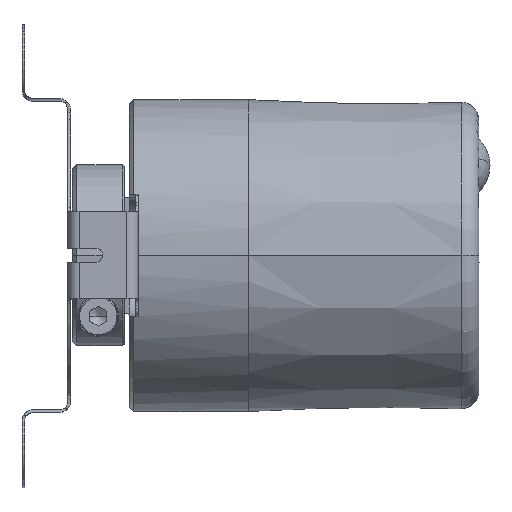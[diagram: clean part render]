
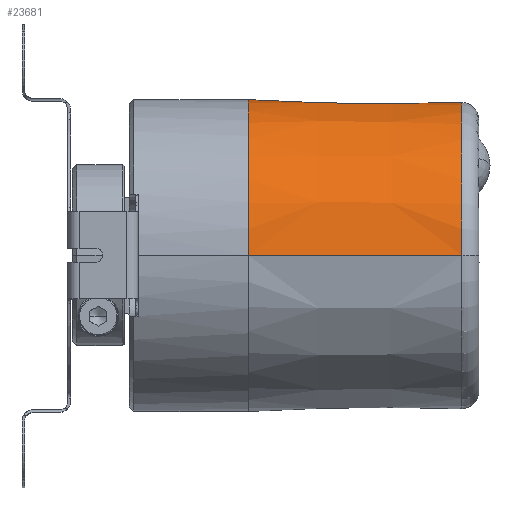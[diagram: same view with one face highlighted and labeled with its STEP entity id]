
A CAD part, top view. The second image highlights one B-rep face of the part: STEP entity #23681.
In plain terms, the highlighted conical face has half-angle 0.75 degrees and reference radius 18 mm.
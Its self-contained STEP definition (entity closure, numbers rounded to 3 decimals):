
#488 = VERTEX_POINT ( 'NONE', #8004 ) ;
#489 = EDGE_CURVE ( 'NONE', #488, #490, #8003, .T. ) ;
#490 = VERTEX_POINT ( 'NONE', #8002 ) ;
#6414 = VERTEX_POINT ( 'NONE', #27886 ) ;
#8002 = CARTESIAN_POINT ( 'NONE',  ( 14.892, 1.046, -17.954 ) ) ;
#8003 = B_SPLINE_CURVE_WITH_KNOTS ( 'NONE', 3,
 ( #8053, #8052, #8051, #8050, #8049, #8048, #8047, #8046, #8045, #8044 ),
 .UNSPECIFIED., .F., .F.,
 ( 4, 2, 2, 2, 4 ),
 ( 0.002, 0.002, 0.002, 0.003, 0.003 ),
 .UNSPECIFIED. ) ;
#8004 = CARTESIAN_POINT ( 'NONE',  ( 15.85, 0., -17.972 ) ) ;
#8044 = CARTESIAN_POINT ( 'NONE',  ( 14.892, 1.046, -17.954 ) ) ;
#8045 = CARTESIAN_POINT ( 'NONE',  ( 15.022, 1.035, -17.953 ) ) ;
#8046 = CARTESIAN_POINT ( 'NONE',  ( 15.149, 0.999, -17.953 ) ) ;
#8047 = CARTESIAN_POINT ( 'NONE',  ( 15.381, 0.884, -17.956 ) ) ;
#8048 = CARTESIAN_POINT ( 'NONE',  ( 15.487, 0.804, -17.959 ) ) ;
#8049 = CARTESIAN_POINT ( 'NONE',  ( 15.662, 0.614, -17.964 ) ) ;
#8050 = CARTESIAN_POINT ( 'NONE',  ( 15.732, 0.501, -17.967 ) ) ;
#8051 = CARTESIAN_POINT ( 'NONE',  ( 15.825, 0.26, -17.971 ) ) ;
#8052 = CARTESIAN_POINT ( 'NONE',  ( 15.85, 0.129, -17.972 ) ) ;
#8053 = CARTESIAN_POINT ( 'NONE',  ( 15.85, 0., -17.972 ) ) ;
#23613 = ORIENTED_EDGE ( 'NONE', *, *, #23643, .T. ) ;
#23614 = VERTEX_POINT ( 'NONE', #29727 ) ;
#23616 = ORIENTED_EDGE ( 'NONE', *, *, #23656, .T. ) ;
#23619 = VERTEX_POINT ( 'NONE', #29721 ) ;
#23638 = EDGE_CURVE ( 'NONE', #23642, #23614, #29808, .T. ) ;
#23639 = EDGE_CURVE ( 'NONE', #23642, #23672, #29803, .T. ) ;
#23640 = ORIENTED_EDGE ( 'NONE', *, *, #23638, .F. ) ;
#23641 = ORIENTED_EDGE ( 'NONE', *, *, #23644, .T. ) ;
#23642 = VERTEX_POINT ( 'NONE', #29802 ) ;
#23643 = EDGE_CURVE ( 'NONE', #23687, #23696, #29829, .T. ) ;
#23644 = EDGE_CURVE ( 'NONE', #23696, #23699, #29824, .T. ) ;
#23645 = ORIENTED_EDGE ( 'NONE', *, *, #23639, .T. ) ;
#23646 = ORIENTED_EDGE ( 'NONE', *, *, #489, .T. ) ;
#23647 = EDGE_CURVE ( 'NONE', #23619, #488, #29819, .T. ) ;
#23649 = EDGE_CURVE ( 'NONE', #490, #23687, #29815, .T. ) ;
#23651 = ORIENTED_EDGE ( 'NONE', *, *, #23647, .T. ) ;
#23652 = ORIENTED_EDGE ( 'NONE', *, *, #23649, .T. ) ;
#23653 = EDGE_CURVE ( 'NONE', #23619, #23672, #29856, .T. ) ;
#23655 = EDGE_CURVE ( 'NONE', #23659, #23614, #29847, .T. ) ;
#23656 = EDGE_CURVE ( 'NONE', #6414, #23659, #29841, .T. ) ;
#23658 = ORIENTED_EDGE ( 'NONE', *, *, #23655, .T. ) ;
#23659 = VERTEX_POINT ( 'NONE', #29892 ) ;
#23660 = EDGE_CURVE ( 'NONE', #6414, #23699, #29886, .T. ) ;
#23663 = ORIENTED_EDGE ( 'NONE', *, *, #23660, .F. ) ;
#23672 = VERTEX_POINT ( 'NONE', #29909 ) ;
#23681 = ADVANCED_FACE ( 'NONE', ( #29897 ), #29985, .T. ) ;
#23683 = ORIENTED_EDGE ( 'NONE', *, *, #23653, .F. ) ;
#23687 = VERTEX_POINT ( 'NONE', #29978 ) ;
#23689 = EDGE_LOOP ( 'NONE', ( #23683, #23651, #23646, #23652, #23613, #23641, #23663, #23616, #23658, #23640, #23645 ) ) ;
#23696 = VERTEX_POINT ( 'NONE', #29993 ) ;
#23699 = VERTEX_POINT ( 'NONE', #29986 ) ;
#27886 = CARTESIAN_POINT ( 'NONE',  ( 38.326, 0., 17.678 ) ) ;
#29721 = CARTESIAN_POINT ( 'NONE',  ( 24.3, 0., -17.861 ) ) ;
#29727 = CARTESIAN_POINT ( 'NONE',  ( 38.3, 9.486, -14.917 ) ) ;
#29798 = CARTESIAN_POINT ( 'NONE',  ( 25.672, 9.264, -15.25 ) ) ;
#29799 = CARTESIAN_POINT ( 'NONE',  ( 25.977, 9.368, -15.181 ) ) ;
#29800 = CARTESIAN_POINT ( 'NONE',  ( 26.135, 9.397, -15.161 ) ) ;
#29801 = CARTESIAN_POINT ( 'NONE',  ( 26.3, 9.398, -15.158 ) ) ;
#29802 = CARTESIAN_POINT ( 'NONE',  ( 26.3, 9.398, -15.158 ) ) ;
#29803 = B_SPLINE_CURVE_WITH_KNOTS ( 'NONE', 3,
 ( #29801, #29800, #29799, #29798, #29837, #29836, #29835, #29834, #29833, #29832, #29831, #29830 ),
 .UNSPECIFIED., .F., .F.,
 ( 4, 2, 2, 2, 2, 4 ),
 ( 0., 0., 0.001, 0.002, 0.003, 0.004 ),
 .UNSPECIFIED. ) ;
#29804 = CARTESIAN_POINT ( 'NONE',  ( 38.3, 9.486, -14.917 ) ) ;
#29805 = CARTESIAN_POINT ( 'NONE',  ( 34.3, 9.457, -14.998 ) ) ;
#29806 = CARTESIAN_POINT ( 'NONE',  ( 30.3, 9.427, -15.078 ) ) ;
#29807 = CARTESIAN_POINT ( 'NONE',  ( 26.3, 9.398, -15.158 ) ) ;
#29808 = B_SPLINE_CURVE_WITH_KNOTS ( 'NONE', 3,
 ( #29807, #29806, #29805, #29804 ),
 .UNSPECIFIED., .F., .F.,
 ( 4, 4 ),
 ( 0.002, 0.014 ),
 .UNSPECIFIED. ) ;
#29815 =( BOUNDED_CURVE ( )  B_SPLINE_CURVE ( 3, ( #29860, #29859, #29858, #29857 ),
 .UNSPECIFIED., .F., .T. ) 
 B_SPLINE_CURVE_WITH_KNOTS ( ( 4, 4 ),
 ( 4.62, 4.623 ),
 .UNSPECIFIED. ) 
 CURVE ( )  GEOMETRIC_REPRESENTATION_ITEM ( )  RATIONAL_B_SPLINE_CURVE ( ( 1., 1., 1., 1. ) ) 
 REPRESENTATION_ITEM ( '' )  );
#29816 = DIRECTION ( 'NONE',  ( -1., 0., -0.013 ) ) ;
#29817 = VECTOR ( 'NONE', #29816, 1000. ) ;
#29818 = CARTESIAN_POINT ( 'NONE',  ( 13.7, 0., -18. ) ) ;
#29819 = LINE ( 'NONE', #29818, #29817 ) ;
#29820 = DIRECTION ( 'NONE',  ( 0., 0., -1. ) ) ;
#29821 = DIRECTION ( 'NONE',  ( 1., 0., 0. ) ) ;
#29822 = CARTESIAN_POINT ( 'NONE',  ( 13.7, 0., 0. ) ) ;
#29823 = AXIS2_PLACEMENT_3D ( 'NONE', #29822, #29821, #29820 ) ;
#29824 = CIRCLE ( 'NONE', #29823, 18. ) ;
#29825 = CARTESIAN_POINT ( 'NONE',  ( 13.7, 1.65, -17.924 ) ) ;
#29826 = CARTESIAN_POINT ( 'NONE',  ( 13.882, 1.468, -17.939 ) ) ;
#29827 = CARTESIAN_POINT ( 'NONE',  ( 14.065, 1.285, -17.95 ) ) ;
#29828 = CARTESIAN_POINT ( 'NONE',  ( 14.248, 1.102, -17.959 ) ) ;
#29829 =( BOUNDED_CURVE ( )  B_SPLINE_CURVE ( 3, ( #29828, #29827, #29826, #29825 ),
 .UNSPECIFIED., .F., .T. ) 
 B_SPLINE_CURVE_WITH_KNOTS ( ( 4, 4 ),
 ( 4.761, 4.791 ),
 .UNSPECIFIED. ) 
 CURVE ( )  GEOMETRIC_REPRESENTATION_ITEM ( )  RATIONAL_B_SPLINE_CURVE ( ( 1., 1., 1., 1. ) ) 
 REPRESENTATION_ITEM ( '' )  );
#29830 = CARTESIAN_POINT ( 'NONE',  ( 24.3, 6.771, -16.528 ) ) ;
#29831 = CARTESIAN_POINT ( 'NONE',  ( 24.3, 7.074, -16.404 ) ) ;
#29832 = CARTESIAN_POINT ( 'NONE',  ( 24.343, 7.37, -16.272 ) ) ;
#29833 = CARTESIAN_POINT ( 'NONE',  ( 24.507, 7.94, -16. ) ) ;
#29834 = CARTESIAN_POINT ( 'NONE',  ( 24.625, 8.207, -15.862 ) ) ;
#29835 = CARTESIAN_POINT ( 'NONE',  ( 24.948, 8.703, -15.59 ) ) ;
#29836 = CARTESIAN_POINT ( 'NONE',  ( 25.15, 8.928, -15.458 ) ) ;
#29837 = CARTESIAN_POINT ( 'NONE',  ( 25.533, 9.191, -15.296 ) ) ;
#29838 = DIRECTION ( 'NONE',  ( 0., 0., -1. ) ) ;
#29839 = DIRECTION ( 'NONE',  ( -1., 0., 0. ) ) ;
#29840 = AXIS2_PLACEMENT_3D ( 'NONE', #29846, #29839, #29838 ) ;
#29841 = CIRCLE ( 'NONE', #29840, 17.678 ) ;
#29842 = CARTESIAN_POINT ( 'NONE',  ( 38.3, 9.486, -14.917 ) ) ;
#29843 = CARTESIAN_POINT ( 'NONE',  ( 38.309, 9.486, -14.917 ) ) ;
#29844 = CARTESIAN_POINT ( 'NONE',  ( 38.317, 9.486, -14.917 ) ) ;
#29845 = CARTESIAN_POINT ( 'NONE',  ( 38.326, 9.486, -14.917 ) ) ;
#29846 = CARTESIAN_POINT ( 'NONE',  ( 38.326, 0., 0. ) ) ;
#29847 = B_SPLINE_CURVE_WITH_KNOTS ( 'NONE', 3,
 ( #29845, #29844, #29843, #29842 ),
 .UNSPECIFIED., .F., .F.,
 ( 4, 4 ),
 ( 0.004, 0.004 ),
 .UNSPECIFIED. ) ;
#29852 = DIRECTION ( 'NONE',  ( 0., 0., 1. ) ) ;
#29853 = DIRECTION ( 'NONE',  ( 1., 0., 0. ) ) ;
#29854 = CARTESIAN_POINT ( 'NONE',  ( 24.3, 0., 0. ) ) ;
#29855 = AXIS2_PLACEMENT_3D ( 'NONE', #29854, #29853, #29852 ) ;
#29856 = CIRCLE ( 'NONE', #29855, 17.861 ) ;
#29857 = CARTESIAN_POINT ( 'NONE',  ( 14.248, 1.102, -17.959 ) ) ;
#29858 = CARTESIAN_POINT ( 'NONE',  ( 14.462, 1.084, -17.957 ) ) ;
#29859 = CARTESIAN_POINT ( 'NONE',  ( 14.677, 1.065, -17.956 ) ) ;
#29860 = CARTESIAN_POINT ( 'NONE',  ( 14.892, 1.046, -17.954 ) ) ;
#29883 = DIRECTION ( 'NONE',  ( -1., 0., 0.013 ) ) ;
#29884 = VECTOR ( 'NONE', #29883, 1000. ) ;
#29885 = CARTESIAN_POINT ( 'NONE',  ( 13.7, 0., 18. ) ) ;
#29886 = LINE ( 'NONE', #29885, #29884 ) ;
#29892 = CARTESIAN_POINT ( 'NONE',  ( 38.326, 9.486, -14.917 ) ) ;
#29897 = FACE_OUTER_BOUND ( 'NONE', #23689, .T. ) ;
#29909 = CARTESIAN_POINT ( 'NONE',  ( 24.3, 6.771, -16.528 ) ) ;
#29978 = CARTESIAN_POINT ( 'NONE',  ( 14.248, 1.102, -17.959 ) ) ;
#29981 = DIRECTION ( 'NONE',  ( 0., 0., 1. ) ) ;
#29982 = DIRECTION ( 'NONE',  ( -1., 0., 0. ) ) ;
#29983 = CARTESIAN_POINT ( 'NONE',  ( 13.7, 0., 0. ) ) ;
#29984 = AXIS2_PLACEMENT_3D ( 'NONE', #29983, #29982, #29981 ) ;
#29985 = CONICAL_SURFACE ( 'NONE', #29984, 18., 0.013 ) ;
#29986 = CARTESIAN_POINT ( 'NONE',  ( 13.7, 0., 18. ) ) ;
#29993 = CARTESIAN_POINT ( 'NONE',  ( 13.7, 1.65, -17.924 ) ) ;
